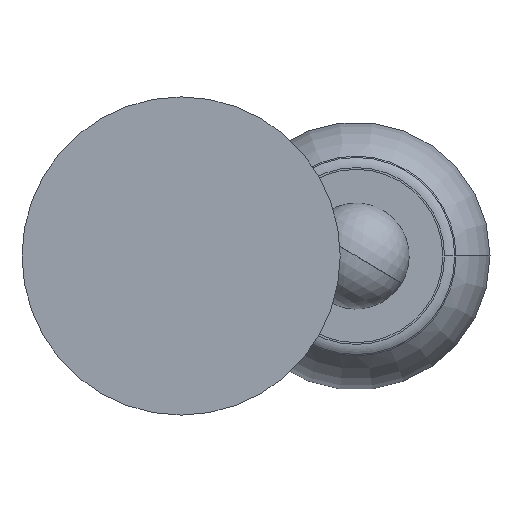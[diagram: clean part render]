
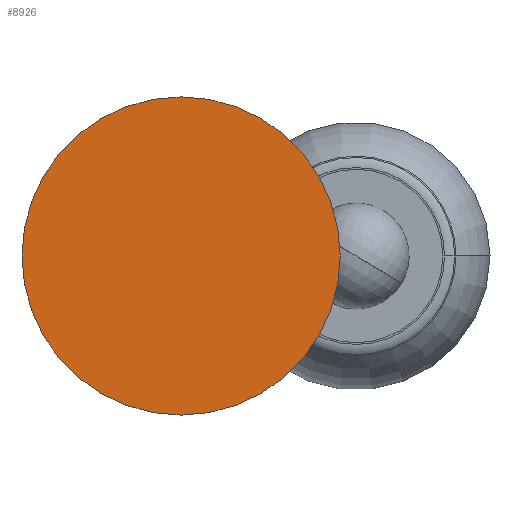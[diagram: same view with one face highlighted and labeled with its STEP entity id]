
A CAD part, front view. The second image highlights one B-rep face of the part: STEP entity #8926.
In plain terms, the highlighted planar face has unit normal (0, -1, 0).
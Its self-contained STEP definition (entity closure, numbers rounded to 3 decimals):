
#142 = CARTESIAN_POINT ( 'NONE',  ( 0., 0., 0. ) ) ;
#318 = CIRCLE ( 'NONE', #4437, 90. ) ;
#725 = PLANE ( 'NONE',  #7989 ) ;
#1548 = AXIS2_PLACEMENT_3D ( 'NONE', #9800, #9751, #2076 ) ;
#1567 = EDGE_CURVE ( 'NONE', #4445, #7759, #318, .T. ) ;
#2070 = ORIENTED_EDGE ( 'NONE', *, *, #6771, .F. ) ;
#2076 = DIRECTION ( 'NONE',  ( 0., 0., 1. ) ) ;
#2342 = DIRECTION ( 'NONE',  ( 0., 0., 1. ) ) ;
#2785 = EDGE_LOOP ( 'NONE', ( #2070, #4112 ) ) ;
#3674 = CARTESIAN_POINT ( 'NONE',  ( 0., 0., -90. ) ) ;
#3675 = CARTESIAN_POINT ( 'NONE',  ( 0., 0., 0. ) ) ;
#4112 = ORIENTED_EDGE ( 'NONE', *, *, #1567, .F. ) ;
#4437 = AXIS2_PLACEMENT_3D ( 'NONE', #3675, #5422, #2342 ) ;
#4445 = VERTEX_POINT ( 'NONE', #8955 ) ;
#4515 = FACE_OUTER_BOUND ( 'NONE', #2785, .T. ) ;
#4613 = DIRECTION ( 'NONE',  ( 0., 1., 0. ) ) ;
#5422 = DIRECTION ( 'NONE',  ( 0., 1., 0. ) ) ;
#6771 = EDGE_CURVE ( 'NONE', #7759, #4445, #7900, .T. ) ;
#7759 = VERTEX_POINT ( 'NONE', #3674 ) ;
#7900 = CIRCLE ( 'NONE', #1548, 90. ) ;
#7989 = AXIS2_PLACEMENT_3D ( 'NONE', #142, #4613, #8450 ) ;
#8450 = DIRECTION ( 'NONE',  ( 0., 0., 1. ) ) ;
#8926 = ADVANCED_FACE ( 'NONE', ( #4515 ), #725, .F. ) ;
#8955 = CARTESIAN_POINT ( 'NONE',  ( 0., 0., 90. ) ) ;
#9751 = DIRECTION ( 'NONE',  ( 0., 1., 0. ) ) ;
#9800 = CARTESIAN_POINT ( 'NONE',  ( 0., 0., 0. ) ) ;
